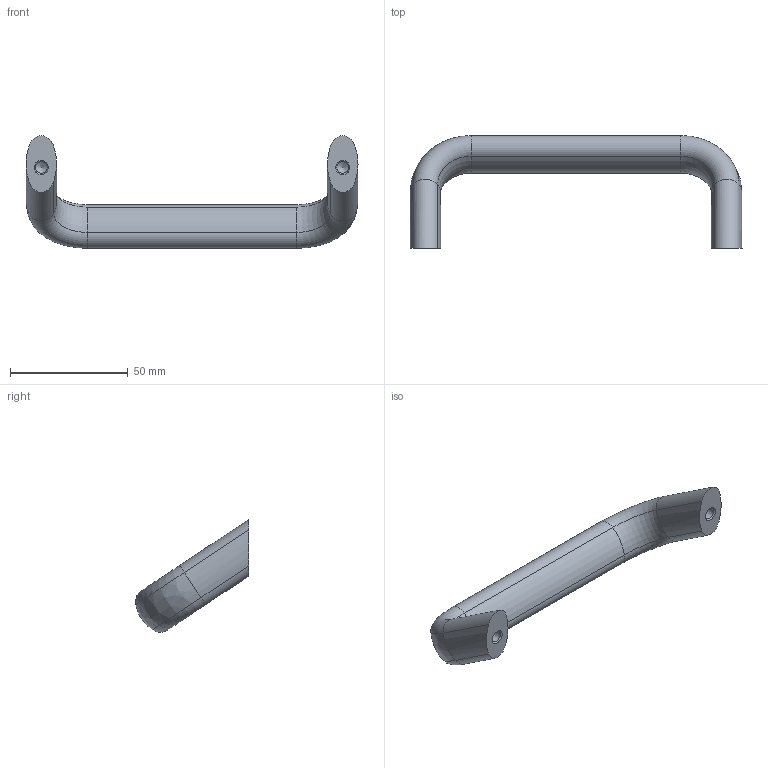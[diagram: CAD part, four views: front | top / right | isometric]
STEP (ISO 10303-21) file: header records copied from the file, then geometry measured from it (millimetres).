
FILE_DESCRIPTION( ( 'STEP AP203' ), '1' );
FILE_NAME( 'C:/Temp/Ganter_Step_05_03_2020/data/1_2/gn_565_2/Inclined cabinet „U“ handle GN 565.2-20-128-A-SR.stp', '2020-03-05T10:09:47', ( 'License CC BY-ND 4.0' ), ( 'CADENAS' ), ' ', 'PARTsolutions', ' ' );
FILE_SCHEMA( ( 'CONFIG_CONTROL_DESIGN' ) );
Length unit declared in the file: millimetre
Products named in the file (1): _Inclined cabinet U handle GN 565.2-20-128-A-SR
Bounding box: 141 x 47.99 x 47.78 mm (x, y, z)
Volume: 43002.7 mm3; surface area: 11861.3 mm2
Topology: 1 solids, 1 shells, 28 faces, 58 edges, 32 vertices
Faces by surface type: cylinder 14, torus 6, cone 4, bspline 2, plane 2
Full cylindrical faces by diameter (mm): 4.917 x2
Entity records: 766 total; most frequent: DIRECTION 142, CARTESIAN_POINT 141, ORIENTED_EDGE 100, AXIS2_PLACEMENT_3D 65, EDGE_CURVE 50, EDGE_LOOP 34, VERTEX_POINT 32, FACE_OUTER_BOUND 30
